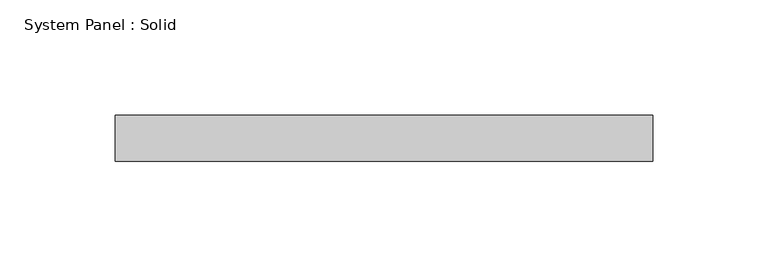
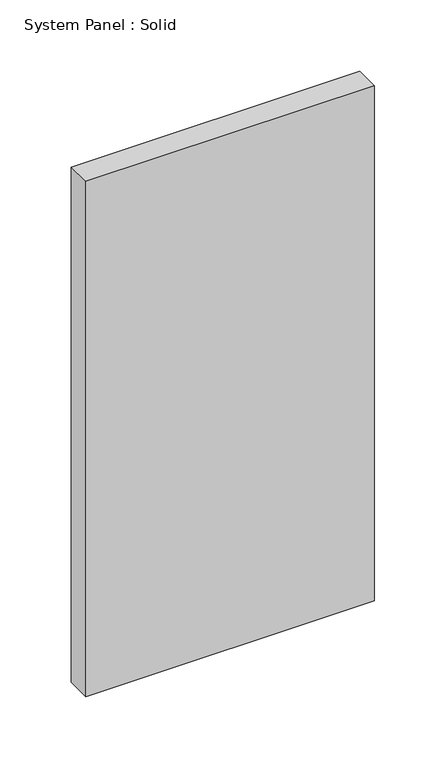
"""IFC4 building model written with IfcOpenShell, lengths in millimetres: plate geometry, System Panel : Solid."""

import ifcopenshell
import ifcopenshell.guid

model = None  # the IFC model being written
_history = None  # IfcOwnerHistory: only IFC2X3 demands one
_inside = {}  # id of a spatial element -> (the spatial element, [elements in it])
_under = {}  # id of a project, library or spatial element -> (it, [spatial elements below it])
_declared = {}  # id of a project -> (the project, [libraries it declares])
_typed = {}  # id of a type object -> (the type object, [elements of that type])
_made_of = {}  # id of a material, layer set ... -> (it, [elements and type objects made of it])


def new_model(schema):
    """Start an empty IFC model of exactly this schema.

    Asked for "IFC4X3", IfcOpenShell would pick the latest addendum, in which some entities
    have other attributes; the version numbers below select the first issue.
    IFC2X3 requires an IfcOwnerHistory on every rooted entity: one is made here for all.
    """
    global model, _history
    if schema == "IFC4X3":
        model = ifcopenshell.file(schema_version=(4, 3, 0, 0))
    else:
        model = ifcopenshell.file(schema=schema)
    _inside.clear()
    _under.clear()
    _declared.clear()
    _typed.clear()
    _made_of.clear()
    _history = None
    if model.schema == "IFC2X3":
        org = make("IfcOrganization", Name="unknown")
        user = make(
            "IfcPersonAndOrganization",
            ThePerson=make("IfcPerson", FamilyName="unknown"),
            TheOrganization=org,
        )
        app = make(
            "IfcApplication",
            ApplicationDeveloper=org,
            Version="unknown",
            ApplicationFullName="unknown",
            ApplicationIdentifier="unknown",
        )
        _history = make(
            "IfcOwnerHistory",
            OwningUser=user,
            OwningApplication=app,
            ChangeAction="ADDED",
            CreationDate=0,
        )
    return model


def make(cls, **values):
    """One entity of the class cls with the attributes given. An attribute that is None is left unset."""
    return model.create_entity(
        cls, **{name: value for name, value in values.items() if value is not None}
    )


def rooted(cls, **values):
    """An entity with a GlobalId (a new one), such as an element, a storey or a relation."""
    return make(cls, GlobalId=ifcopenshell.guid.new(), OwnerHistory=_history, **values)


def si_unit(unit_type, name, prefix=None):
    """IfcSIUnit, for example si_unit("LENGTHUNIT", "METRE", prefix="MILLI")."""
    return make("IfcSIUnit", UnitType=unit_type, Prefix=prefix, Name=name)


def assignment(units):
    """IfcUnitAssignment: the units of a project."""
    return None if units is None else make("IfcUnitAssignment", Units=units)


def point(xyz):
    """IfcCartesianPoint."""
    return None if xyz is None else make("IfcCartesianPoint", Coordinates=xyz)


def direction(xyz):
    """IfcDirection."""
    return None if xyz is None else make("IfcDirection", DirectionRatios=xyz)


def frame(location, z_axis=None, x_axis=None):
    """IfcAxis2Placement3D, a coordinate frame: its origin and axes. An axis left out is left unset."""
    return make(
        "IfcAxis2Placement3D",
        Location=point(location),
        Axis=direction(z_axis),
        RefDirection=direction(x_axis),
    )


def origin():
    """The frame at (0, 0, 0) with its axes left unset."""
    return frame((0.0, 0.0, 0.0))


def origin_with_axes():
    """The frame at (0, 0, 0) with the z axis (0, 0, 1) and the x axis (1, 0, 0) written out."""
    return frame((0.0, 0.0, 0.0), z_axis=(0.0, 0.0, 1.0), x_axis=(1.0, 0.0, 0.0))


def place(relative_to, where):
    """IfcLocalPlacement: puts the frame where relative to a parent placement (None: the world)."""
    return make(
        "IfcLocalPlacement", PlacementRelTo=relative_to, RelativePlacement=where
    )


def context(
    kind, dimensions, precision=None, world=None, true_north=None, identifier=None
):
    """IfcGeometricRepresentationContext, for example the 3D "Model" context."""
    return make(
        "IfcGeometricRepresentationContext",
        ContextIdentifier=identifier,
        ContextType=kind,
        CoordinateSpaceDimension=dimensions,
        Precision=precision,
        WorldCoordinateSystem=world,
        TrueNorth=true_north,
    )


def project(units=None, contexts=None):
    """IfcProject with its units and contexts."""
    return rooted(
        "IfcProject",
        Name="project",
        RepresentationContexts=contexts,
        UnitsInContext=assignment(units),
    )


def spatial(cls, under=None, at=None, **own):
    """A site, building, storey or space (cls), placed at a placement, below another one or the project."""
    s = rooted(cls, ObjectPlacement=at, **own)
    if under is not None:
        _under.setdefault(under.id(), (under, []))[1].append(s)
    return s


def polyline(points):
    """IfcPolyline through the points."""
    return make("IfcPolyline", Points=[point(p) for p in points])


def outline(outer, holes=None, kind="AREA"):
    """IfcArbitraryClosedProfileDef: a profile drawn as a closed curve; with holes, ...WithVoids."""
    if holes is None:
        return make("IfcArbitraryClosedProfileDef", ProfileType=kind, OuterCurve=outer)
    return make(
        "IfcArbitraryProfileDefWithVoids",
        ProfileType=kind,
        OuterCurve=outer,
        InnerCurves=holes,
    )


def extrude(swept, where, along, depth):
    """IfcExtrudedAreaSolid: the profile swept, set in the frame where, extruded along a direction by depth."""
    return make(
        "IfcExtrudedAreaSolid",
        SweptArea=swept,
        Position=where,
        ExtrudedDirection=direction(along),
        Depth=depth,
    )


def shape(context_of_items, identifier, shape_type, items):
    """IfcShapeRepresentation: the items that make up one representation, for example the "Body"."""
    return make(
        "IfcShapeRepresentation",
        ContextOfItems=context_of_items,
        RepresentationIdentifier=identifier,
        RepresentationType=shape_type,
        Items=items,
    )


def source(mapping_origin, context_of_items, identifier, shape_type, items):
    """IfcRepresentationMap: a shape defined once, which mapped items show again and again."""
    return make(
        "IfcRepresentationMap",
        MappingOrigin=mapping_origin,
        MappedRepresentation=shape(context_of_items, identifier, shape_type, items),
    )


def transform(
    local_origin,
    x_axis=None,
    y_axis=None,
    z_axis=None,
    scale=None,
    scale2=None,
    scale3=None,
    uniform=True,
):
    """IfcCartesianTransformationOperator3D, or its non-uniform kind. x_axis, y_axis, z_axis: its Axis1, 2, 3."""
    if uniform:
        return make(
            "IfcCartesianTransformationOperator3D",
            Axis1=direction(x_axis),
            Axis2=direction(y_axis),
            LocalOrigin=point(local_origin),
            Scale=scale,
            Axis3=direction(z_axis),
        )
    return make(
        "IfcCartesianTransformationOperator3DnonUniform",
        Axis1=direction(x_axis),
        Axis2=direction(y_axis),
        LocalOrigin=point(local_origin),
        Scale=scale,
        Axis3=direction(z_axis),
        Scale2=scale2,
        Scale3=scale3,
    )


def mapped(mapping_source, mapping_target):
    """IfcMappedItem: shows the shape of a source again, moved by a transform."""
    return make(
        "IfcMappedItem", MappingSource=mapping_source, MappingTarget=mapping_target
    )


def made_of(thing, what):
    """Note that an element or type object is made of a material, layer set ...; save() writes the relation."""
    if what is not None:
        _made_of.setdefault(what.id(), (what, []))[1].append(thing)
    return thing


def element(
    cls,
    number,
    at=None,
    inside=None,
    cuts=None,
    type_object=None,
    material=None,
    context=None,
    identifier="Body",
    shape_type=None,
    held_by="IfcProductDefinitionShape",
    body=None,
    shapes=None,
    **own,
):
    """One element of the class cls, such as IfcWall. Its Tag is "e" and its number.

    at: its placement. inside: the storey or other place that contains it. cuts: it is an
    opening in that element (IfcRelVoidsElement). A single representation is given by context,
    identifier, shape_type and body (its items); several are given by shapes. held_by: the class
    of the entity that holds the representations. save() writes the other relations.
    """
    e = rooted(cls, Tag="e%d" % number, ObjectPlacement=at, **own)
    if body is not None:
        shapes = [shape(context, identifier, shape_type, body)]
    if shapes is not None:
        e.Representation = make(held_by, Representations=shapes)
    if inside is not None:
        _inside.setdefault(inside.id(), (inside, []))[1].append(e)
    if cuts is not None:
        rooted(
            "IfcRelVoidsElement", RelatingBuildingElement=cuts, RelatedOpeningElement=e
        )
    if type_object is not None:
        _typed.setdefault(type_object.id(), (type_object, []))[1].append(e)
    return made_of(e, material)


def aggregate(whole, parts):
    """IfcRelAggregates: a whole, such as a stair, and the parts it consists of."""
    return rooted("IfcRelAggregates", RelatingObject=whole, RelatedObjects=parts)


def save(model, path):
    """Write the relations noted so far, then the file.

    IfcRelAggregates (storeys below a building ...), IfcRelContainedInSpatialStructure (elements
    in a storey), IfcRelDefinesByType, IfcRelAssociatesMaterial and IfcRelDeclares: one each for
    every whole, place, type object, material and project.
    """
    for whole, parts in _under.values():
        aggregate(whole, parts)
    for where, things in _inside.values():
        rooted(
            "IfcRelContainedInSpatialStructure",
            RelatedElements=things,
            RelatingStructure=where,
        )
    for kind, things in _typed.values():
        rooted("IfcRelDefinesByType", RelatedObjects=things, RelatingType=kind)
    for what, things in _made_of.values():
        rooted("IfcRelAssociatesMaterial", RelatedObjects=things, RelatingMaterial=what)
    for by, libraries in _declared.values():
        rooted("IfcRelDeclares", RelatingContext=by, RelatedDefinitions=libraries)
    model.write(path)


def system_panel_solid_fcfcf30d(model_context):
    return source(origin(), model_context, "Body", "SweptSolid", [
        extrude(outline(polyline([(116.5, -10.0), (-116.5, -10.0), (-116.5, 10.0), (116.5, 10.0), (116.5, -10.0)])), origin_with_axes(), (0.0, 0.0, 1.0), 440.0),
    ])


if __name__ == "__main__":
    model = new_model("IFC4")
    model_context = context("Model", 3, world=origin())
    ifc_project = project(units=[si_unit("LENGTHUNIT", "METRE", prefix="MILLI")], contexts=[model_context])
    site = spatial("IfcSite", under=ifc_project)
    building = spatial("IfcBuilding", under=site)
    placement = place(None, origin())
    system_panel_solid_shape = system_panel_solid_fcfcf30d(model_context)
    element("IfcPlate", 1, ObjectType="System Panel : Solid", at=placement, inside=building, context=model_context, shape_type="MappedRepresentation", body=[
        mapped(system_panel_solid_shape, transform((0.0, 0.0, 0.0), x_axis=(1.0, 0.0, 0.0), y_axis=(0.0, 1.0, 0.0), z_axis=(0.0, 0.0, 1.0))),
    ])
    save(model, "model.ifc")
